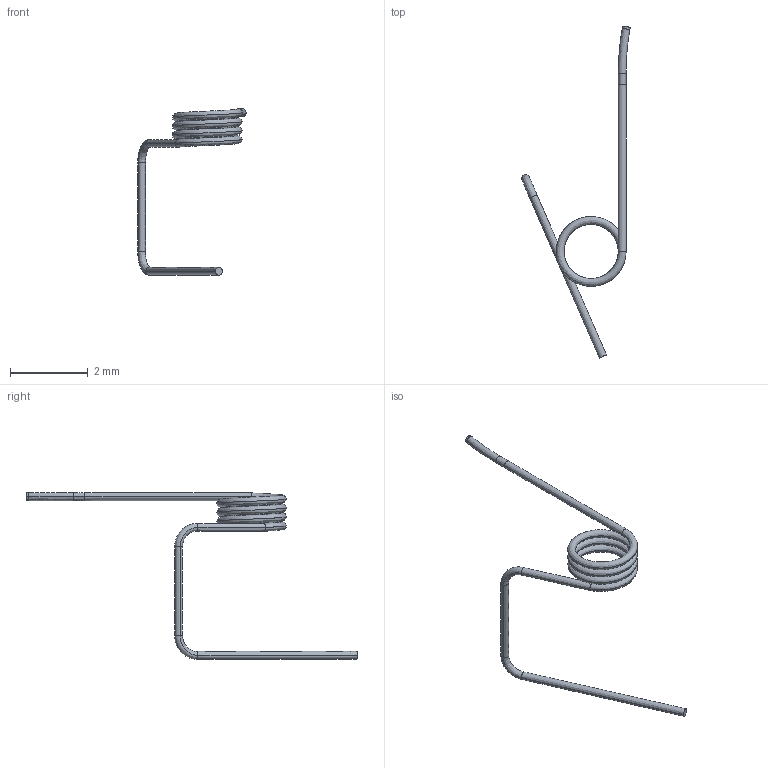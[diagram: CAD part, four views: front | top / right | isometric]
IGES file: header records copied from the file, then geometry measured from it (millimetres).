
Start section:  PTC IGES file: spring_pcmcia_flip_prt.igs
Global section: file name: spring_pcmcia_flip_prt.igs; native system: Pro/ENGINEER by Parametric Technology Corporation; preprocessor: 2000030; author: ECaille; organization: Unknown; date: 000803.092136; units: millimetre
Bounding box: 2.8 x 8.56 x 4.29 mm (x, y, z)
Surface area: 21 mm2 (no closed solid volume)
Topology: 0 solids, 0 shells, 22 faces, 130 edges, 176 vertices
Faces by surface type: extrusion 12, revolution 6, bspline 4
